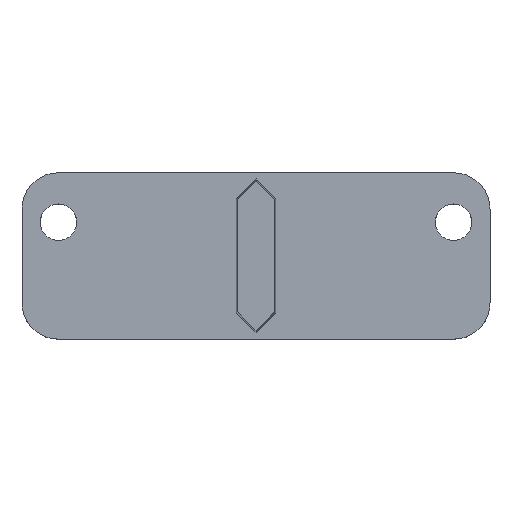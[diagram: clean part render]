
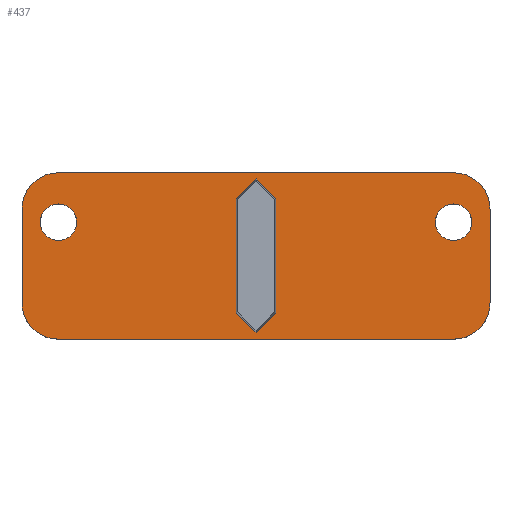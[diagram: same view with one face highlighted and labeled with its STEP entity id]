
A CAD part, top view. The second image highlights one B-rep face of the part: STEP entity #437.
In plain terms, the highlighted planar face has unit normal (0, 0, 1).
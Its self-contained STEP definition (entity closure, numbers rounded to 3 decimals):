
#116=PLANE('',#468);
#125=VECTOR('',#502,1.);
#132=VECTOR('',#515,1.);
#136=VECTOR('',#520,1.);
#142=VECTOR('',#528,1.);
#144=VECTOR('',#531,1.);
#145=VECTOR('',#533,1.);
#147=VECTOR('',#536,1.);
#148=VECTOR('',#546,1.);
#149=VECTOR('',#548,1.);
#150=VECTOR('',#550,1.);
#159=LINE('',#589,#125);
#166=LINE('',#605,#132);
#170=LINE('',#613,#136);
#176=LINE('',#625,#142);
#178=LINE('',#629,#144);
#179=LINE('',#631,#145);
#181=LINE('',#635,#147);
#182=LINE('',#643,#148);
#183=LINE('',#645,#149);
#184=LINE('',#647,#150);
#185=VERTEX_POINT('',#554);
#186=VERTEX_POINT('',#555);
#189=VERTEX_POINT('',#563);
#190=VERTEX_POINT('',#564);
#193=VERTEX_POINT('',#572);
#194=VERTEX_POINT('',#573);
#197=VERTEX_POINT('',#581);
#198=VERTEX_POINT('',#582);
#205=VERTEX_POINT('',#604);
#206=VERTEX_POINT('',#606);
#208=VERTEX_POINT('',#612);
#212=VERTEX_POINT('',#624);
#213=VERTEX_POINT('',#628);
#214=VERTEX_POINT('',#632);
#215=VERTEX_POINT('',#638);
#216=VERTEX_POINT('',#641);
#217=CIRCLE('',#439,3.5);
#219=CIRCLE('',#442,3.5);
#221=CIRCLE('',#445,3.5);
#223=CIRCLE('',#448,3.5);
#227=CIRCLE('',#462,1.75);
#228=CIRCLE('',#464,1.75);
#229=EDGE_CURVE('',#185,#186,#217,.T.);
#233=EDGE_CURVE('',#189,#190,#219,.T.);
#237=EDGE_CURVE('',#193,#194,#221,.T.);
#241=EDGE_CURVE('',#197,#198,#223,.T.);
#245=EDGE_CURVE('',#186,#189,#159,.T.);
#254=EDGE_CURVE('',#205,#206,#166,.F.);
#258=EDGE_CURVE('',#205,#208,#170,.T.);
#264=EDGE_CURVE('',#212,#208,#176,.F.);
#266=EDGE_CURVE('',#213,#212,#178,.F.);
#267=EDGE_CURVE('',#206,#214,#179,.F.);
#269=EDGE_CURVE('',#213,#214,#181,.T.);
#270=EDGE_CURVE('',#215,#215,#227,.T.);
#271=EDGE_CURVE('',#216,#216,#228,.T.);
#272=EDGE_CURVE('',#190,#197,#182,.T.);
#273=EDGE_CURVE('',#198,#193,#183,.T.);
#274=EDGE_CURVE('',#194,#185,#184,.T.);
#351=ORIENTED_EDGE('',*,*,#229,.F.);
#352=ORIENTED_EDGE('',*,*,#274,.F.);
#353=ORIENTED_EDGE('',*,*,#237,.F.);
#354=ORIENTED_EDGE('',*,*,#273,.F.);
#355=ORIENTED_EDGE('',*,*,#241,.F.);
#356=ORIENTED_EDGE('',*,*,#272,.F.);
#357=ORIENTED_EDGE('',*,*,#233,.F.);
#358=ORIENTED_EDGE('',*,*,#245,.F.);
#359=ORIENTED_EDGE('',*,*,#267,.F.);
#360=ORIENTED_EDGE('',*,*,#254,.F.);
#361=ORIENTED_EDGE('',*,*,#258,.T.);
#362=ORIENTED_EDGE('',*,*,#264,.F.);
#363=ORIENTED_EDGE('',*,*,#266,.F.);
#364=ORIENTED_EDGE('',*,*,#269,.T.);
#365=ORIENTED_EDGE('',*,*,#270,.T.);
#366=ORIENTED_EDGE('',*,*,#271,.T.);
#389=EDGE_LOOP('',(#351,#352,#353,#354,#355,#356,#357,#358));
#390=EDGE_LOOP('',(#359,#360,#361,#362,#363,#364));
#391=EDGE_LOOP('',(#365));
#392=EDGE_LOOP('',(#366));
#415=FACE_BOUND('',#389,.T.);
#416=FACE_BOUND('',#390,.T.);
#417=FACE_BOUND('',#391,.T.);
#418=FACE_BOUND('',#392,.T.);
#437=ADVANCED_FACE('',(#415,#416,#417,#418),#116,.T.);
#439=AXIS2_PLACEMENT_3D('',#553,#471,#472);
#442=AXIS2_PLACEMENT_3D('',#562,#479,#480);
#445=AXIS2_PLACEMENT_3D('',#571,#487,#488);
#448=AXIS2_PLACEMENT_3D('',#580,#495,#496);
#462=AXIS2_PLACEMENT_3D('',#637,#539,#540);
#464=AXIS2_PLACEMENT_3D('',#640,#543,#544);
#468=AXIS2_PLACEMENT_3D('',#648,#551,$);
#471=DIRECTION('',(0.,0.,-1.));
#472=DIRECTION('',(-2.475,-2.475,0.));
#479=DIRECTION('',(0.,0.,-1.));
#480=DIRECTION('',(-2.475,2.475,0.));
#487=DIRECTION('',(0.,0.,-1.));
#488=DIRECTION('',(2.475,-2.475,0.));
#495=DIRECTION('',(0.,0.,-1.));
#496=DIRECTION('',(2.475,2.475,0.));
#502=DIRECTION('',(0.,1.,0.));
#515=DIRECTION('',(0.707,-0.707,0.));
#520=DIRECTION('',(0.,-1.,0.));
#528=DIRECTION('',(-0.707,-0.707,0.));
#531=DIRECTION('',(-0.707,0.707,0.));
#533=DIRECTION('',(0.707,0.707,0.));
#536=DIRECTION('',(0.,1.,0.));
#539=DIRECTION('',(0.,0.,-1.));
#540=DIRECTION('',(-1.75,0.,0.));
#543=DIRECTION('',(0.,0.,-1.));
#544=DIRECTION('',(1.75,0.,0.));
#546=DIRECTION('',(1.,0.,0.));
#548=DIRECTION('',(0.,-1.,0.));
#550=DIRECTION('',(-1.,0.,0.));
#551=DIRECTION('',(0.,0.,1.));
#553=CARTESIAN_POINT('',(-19.,-4.5,5.));
#554=CARTESIAN_POINT('',(-19.,-8.,5.));
#555=CARTESIAN_POINT('',(-22.5,-4.5,5.));
#562=CARTESIAN_POINT('',(-19.,4.5,5.));
#563=CARTESIAN_POINT('',(-22.5,4.5,5.));
#564=CARTESIAN_POINT('',(-19.,8.,5.));
#571=CARTESIAN_POINT('',(19.,-4.5,5.));
#572=CARTESIAN_POINT('',(22.5,-4.5,5.));
#573=CARTESIAN_POINT('',(19.,-8.,5.));
#580=CARTESIAN_POINT('',(19.,4.5,5.));
#581=CARTESIAN_POINT('',(19.,8.,5.));
#582=CARTESIAN_POINT('',(22.5,4.5,5.));
#589=CARTESIAN_POINT('',(-22.5,8.,5.));
#604=CARTESIAN_POINT('',(1.9,5.5,5.));
#605=CARTESIAN_POINT('',(2.325,5.075,5.));
#606=CARTESIAN_POINT('',(0.,7.4,5.));
#612=CARTESIAN_POINT('',(1.9,-5.5,5.));
#613=CARTESIAN_POINT('',(1.9,3.7,5.));
#624=CARTESIAN_POINT('',(0.,-7.4,5.));
#625=CARTESIAN_POINT('',(2.325,-5.075,5.));
#628=CARTESIAN_POINT('',(-1.9,-5.5,5.));
#629=CARTESIAN_POINT('',(-2.325,-5.075,5.));
#631=CARTESIAN_POINT('',(-2.325,5.075,5.));
#632=CARTESIAN_POINT('',(-1.9,5.5,5.));
#635=CARTESIAN_POINT('',(-1.9,-3.7,5.));
#637=CARTESIAN_POINT('',(19.,3.25,5.));
#638=CARTESIAN_POINT('',(20.75,3.25,5.));
#640=CARTESIAN_POINT('',(-19.,3.25,5.));
#641=CARTESIAN_POINT('',(-20.75,3.25,5.));
#643=CARTESIAN_POINT('',(22.5,8.,5.));
#645=CARTESIAN_POINT('',(22.5,-8.,5.));
#647=CARTESIAN_POINT('',(-22.5,-8.,5.));
#648=CARTESIAN_POINT('',(0.,0.,5.));
